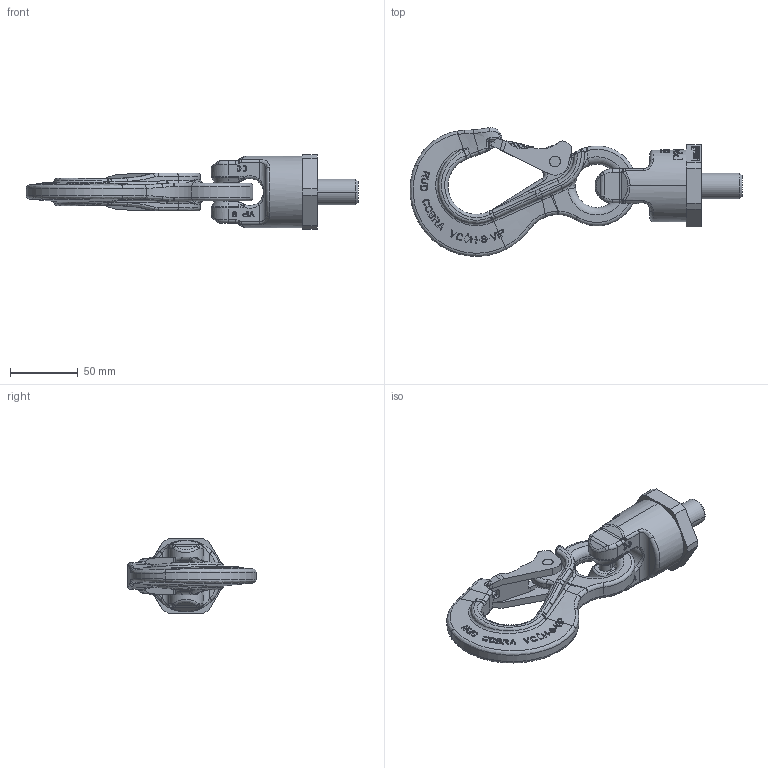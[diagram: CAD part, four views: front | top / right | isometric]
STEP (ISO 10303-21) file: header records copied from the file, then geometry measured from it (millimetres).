
FILE_DESCRIPTION((''),'2;1');
FILE_NAME('001-M35222-P-10_ASM','2019-09-12T',('anja.joas'),(''),'PRO/ENGINEER BY PARAMETRIC TECHNOLOGY CORPORATION, 2011490','PRO/ENGINEER BY PARAMETRIC TECHNOLOGY CORPORATION, 2011490','');
FILE_SCHEMA(('CONFIG_CONTROL_DESIGN'));
Length unit declared in the file: millimetre
Products named in the file (6): 001-M31347-P-20_AF0; 001-M35222-P-20; 001-M33170-P-01; 001-M31177-001; 001-M33170-P-01_ASM; 001-M35222-P-10_ASM
Assembly tree (5 placements, depth 3):
  001-M35222-P-10_ASM
    001-M31347-P-20_AF0
    001-M35222-P-20
    001-M33170-P-01_ASM
      001-M33170-P-01
      001-M31177-001
Bounding box: 244.98 x 94.98 x 55 mm (x, y, z)
Volume: 240838.7 mm3; surface area: 54628.8 mm2
Topology: 4 solids, 4 shells, 1604 faces, 4335 edges, 2786 vertices
Faces by surface type: plane 1128, bspline 236, cylinder 148, torus 50, sphere 36, cone 6
Entity records: 67007 total; most frequent: CARTESIAN_POINT 30303, ORIENTED_EDGE 8610, DIRECTION 6055, EDGE_CURVE 4305, VERTEX_POINT 2786, VECTOR 2177, LINE 2177, AXIS2_PLACEMENT_3D 1939
